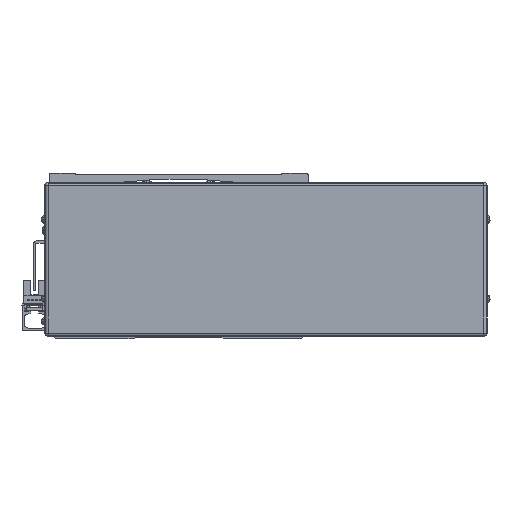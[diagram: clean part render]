
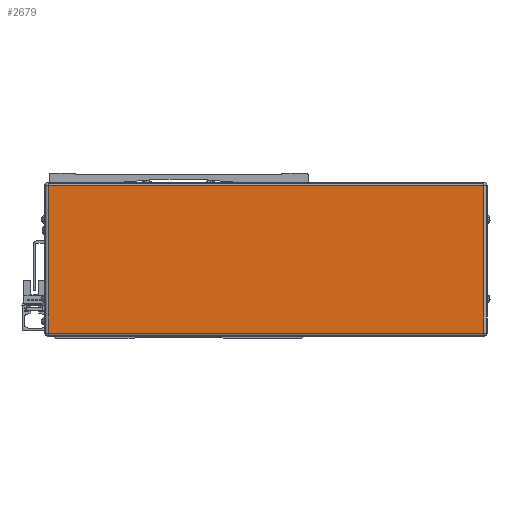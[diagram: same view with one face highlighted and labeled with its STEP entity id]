
A CAD part, front view. The second image highlights one B-rep face of the part: STEP entity #2679.
In plain terms, the highlighted planar face has unit normal (0, -1, 0).
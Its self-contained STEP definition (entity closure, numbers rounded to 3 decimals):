
#2679=ADVANCED_FACE('',(#7391),#7392,.T.);
#7391=FACE_OUTER_BOUND('',#14844,.T.);
#7392=PLANE('',#14845);
#14844=EDGE_LOOP('',(#24001,#24002,#24003,#24004));
#14845=AXIS2_PLACEMENT_3D('',#24005,#24006,#24007);
#24001=ORIENTED_EDGE('',*,*,#44685,.F.);
#24002=ORIENTED_EDGE('',*,*,#44686,.F.);
#24003=ORIENTED_EDGE('',*,*,#44687,.F.);
#24004=ORIENTED_EDGE('',*,*,#44688,.F.);
#24005=CARTESIAN_POINT('',(-545.,252.222,-2.));
#24006=DIRECTION('',(0.,-1.0,0.));
#24007=DIRECTION('',(1.0,0.,0.));
#44685=EDGE_CURVE('',#53029,#53030,#53031,.T.);
#44686=EDGE_CURVE('',#53032,#53029,#53033,.T.);
#44687=EDGE_CURVE('',#53034,#53032,#53035,.T.);
#44688=EDGE_CURVE('',#53030,#53034,#53036,.T.);
#53029=VERTEX_POINT('',#65288);
#53030=VERTEX_POINT('',#65289);
#53031=LINE('',#65290,#65291);
#53032=VERTEX_POINT('',#65292);
#53033=LINE('',#65293,#65294);
#53034=VERTEX_POINT('',#65295);
#53035=LINE('',#65296,#65297);
#53036=LINE('',#65298,#65299);
#65288=CARTESIAN_POINT('',(-682.1,252.222,44.5));
#65289=CARTESIAN_POINT('',(-407.9,252.222,44.5));
#65290=CARTESIAN_POINT('',(-545.,252.222,44.5));
#65291=VECTOR('',#82588,10.0);
#65292=CARTESIAN_POINT('',(-682.1,252.222,-48.5));
#65293=CARTESIAN_POINT('',(-682.1,252.222,-2.));
#65294=VECTOR('',#82589,10.0);
#65295=CARTESIAN_POINT('',(-407.9,252.222,-48.5));
#65296=CARTESIAN_POINT('',(-545.,252.222,-48.5));
#65297=VECTOR('',#82590,10.0);
#65298=CARTESIAN_POINT('',(-407.9,252.222,-2.));
#65299=VECTOR('',#82591,10.0);
#82588=DIRECTION('',(1.0,0.,0.));
#82589=DIRECTION('',(0.,0.,1.0));
#82590=DIRECTION('',(-1.0,0.,0.));
#82591=DIRECTION('',(0.,0.,-1.0));
